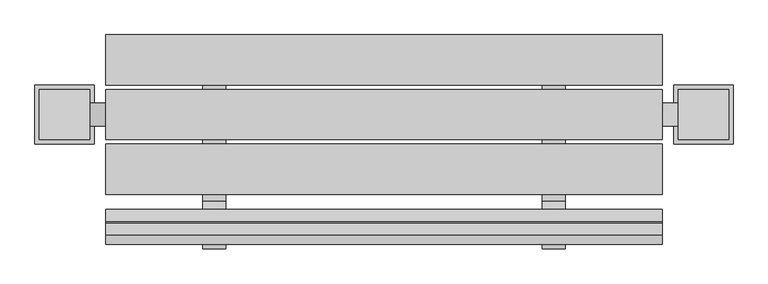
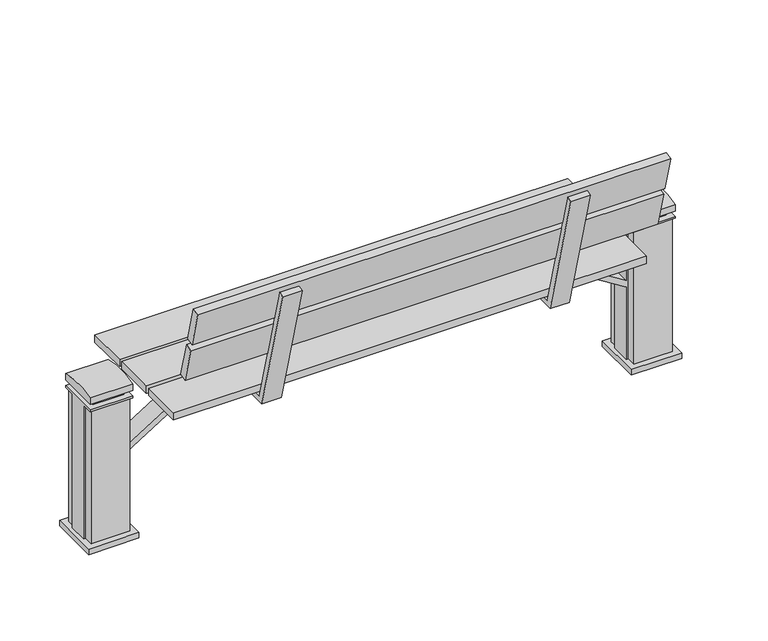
"""IFC4 building model written with IfcOpenShell, lengths in millimetres: geographic element geometry, Banc Urbain : 1500 mm x 380 mm."""

from ifc_helpers import new_model, si_unit, point, frame, frame_2d, origin, origin_with_axes, place, context, project, spatial, polyline, circle_curve, trimmed, segment, composite_curve, outline, extrude, faceted_brep, source, transform, mapped, element, save


def geographic_element_b47a3d4f(model_context):
    return source(origin(), model_context, "Body", "SolidModel", [
        extrude(outline(polyline([(0.0, -20.0000001), (0.0, 0.0), (1220.0, 0.0), (1220.0, -20.0000001), (0.0, -20.0000001)])), frame((660.0, -258.587047, 635.970344), z_axis=(0.0, -0.25881904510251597, 0.9659258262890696), x_axis=(-1.0, 0.0, 0.0)), (0.0, 0.0, 1.0), 100.0),
        extrude(outline(polyline([(0.0, -20.0), (0.0, 0.0), (1220.0, 0.0), (1220.0, -20.0), (0.0, -20.0)])), frame((660.0, -227.5287615, 520.0592448), z_axis=(0.0, -0.2588190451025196, 0.9659258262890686), x_axis=(-1.0, 0.0, 0.0)), (0.0, 0.0, 1.0), 100.0),
        extrude(outline(polyline([(660.0, 55.0), (660.0, -55.0), (-560.0, -55.0), (-560.0, 55.0), (660.0, 55.0)])), frame((0.0, 0.0, 380.0), z_axis=(0.0, 0.0, 1.0), x_axis=(1.0, 0.0, 0.0)), (0.0, 0.0, 1.0), 20.0),
        extrude(outline(polyline([(660.0, 175.0), (660.0, 65.0), (-560.0, 65.0), (-560.0, 175.0), (660.0, 175.0)])), frame((0.0, 0.0, 380.0), z_axis=(0.0, 0.0, 1.0), x_axis=(1.0, 0.0, 0.0)), (0.0, 0.0, 1.0), 20.0),
        extrude(outline(polyline([(660.0, -65.0), (660.0, -175.0), (-560.0, -175.0), (-560.0, -65.0), (660.0, -65.0)])), frame((0.0, 0.0, 380.0), z_axis=(0.0, 0.0, 1.0), x_axis=(1.0, 0.0, 0.0)), (0.0, 0.0, 1.0), 20.0),
        extrude(outline(composite_curve([segment(polyline([(-55.0, 400.0), (-55.0, 417.7043875)]), True, "CONTINUOUS"), segment(trimmed(circle_curve(frame_2d((0.2085392, 225.7354547)), 199.7499786), [point((-55.0, 417.7043875))], [point((55.0, 417.8238453))], False, "CARTESIAN"), True, "CONTINUOUS"), segment(polyline([(55.0, 417.8238453), (55.0, 400.0), (-55.0, 400.0)]), True, "CONTINUOUS")], self_intersect=False)), frame((695.0, 0.0, 0.0), z_axis=(1.0, 0.0, 0.0), x_axis=(0.0, 1.0, 0.0)), (0.0, 0.0, 1.0), 110.0),
        faceted_brep([(-595.0, 55.0, 385.0), (-705.0, 55.0, 385.0), (-705.0, -55.0, 385.0), (-595.0, -55.0, 385.0), (805.0, -55.0, 385.0), (805.0, 55.0, 385.0), (695.0, 55.0, 385.0), (695.0, -55.0, 385.0), (-595.0, -55.0, 380.0), (-705.0, -55.0, 380.0), (-705.0, -25.0, 380.0), (-700.0, -25.0, 380.0), (-700.0, 25.0, 380.0), (-705.0, 25.0, 380.0), (-705.0, 55.0, 380.0), (-595.0, 55.0, 380.0), (-595.0, 25.0, 380.0), (-600.0, 25.0, 380.0), (-600.0, -25.0, 380.0), (-595.0, -25.0, 380.0), (805.0, -55.0, 380.0), (695.0, -55.0, 380.0), (695.0, -25.0, 380.0), (700.0, -25.0, 380.0), (700.0, 25.0, 380.0), (695.0, 25.0, 380.0), (695.0, 55.0, 380.0), (805.0, 55.0, 380.0), (805.0, 25.0, 380.0), (800.0, 25.0, 380.0), (800.0, -25.0, 380.0), (805.0, -25.0, 380.0), (-705.0, 25.0, 15.0), (-705.0, -25.0, 15.0), (-595.0, -25.0, 230.0), (-595.0, 25.0, 230.0), (-595.0, -25.0, 15.0), (-595.0, 25.0, 15.0), (-595.0, 25.0, 212.2764518), (-595.0, -25.0, 212.2764518), (805.0, -25.0, 15.0), (805.0, 25.0, 15.0), (695.0, 25.0, 230.0), (695.0, -25.0, 230.0), (695.0, 25.0, 15.0), (695.0, -25.0, 15.0), (695.0, -25.0, 212.2764518), (695.0, 25.0, 212.2764518), (-700.0, -25.0, 15.0), (-600.0, -25.0, 15.0), (-352.3392511, -25.0, 365.0), (-346.6666667, -25.0, 365.0), (-346.6666667, -25.0, 380.0), (-356.6666667, -25.0, 380.0), (700.0, -25.0, 15.0), (456.6666667, -25.0, 380.0), (446.6666667, -25.0, 380.0), (446.6666667, -25.0, 365.0), (452.3392511, -25.0, 365.0), (800.0, -25.0, 15.0), (396.6666667, -25.0, 365.0), (396.6666667, -25.0, 380.0), (-296.6666667, -25.0, 380.0), (-296.6666667, -25.0, 365.0), (800.0, 25.0, 15.0), (-700.0, 25.0, 15.0), (-600.0, 25.0, 15.0), (-356.6666667, 25.0, 380.0), (-346.6666667, 25.0, 380.0), (-346.6666667, 25.0, 365.0), (-352.3392511, 25.0, 365.0), (700.0, 25.0, 15.0), (452.3392511, 25.0, 365.0), (446.6666667, 25.0, 365.0), (446.6666667, 25.0, 380.0), (456.6666667, 25.0, 380.0), (396.6666667, 25.0, 380.0), (396.6666667, 25.0, 365.0), (-296.6666667, 25.0, 365.0), (-296.6666667, 25.0, 380.0), (-346.6666667, 150.0, 365.0), (-296.6666667, 150.0, 365.0), (396.6666667, 150.0, 365.0), (446.6666667, 150.0, 365.0), (446.6666667, -201.5099048, 365.0), (396.6666667, -201.5099048, 365.0), (-296.6666667, -201.5099048, 365.0), (-346.6666667, -201.5099048, 365.0), (-346.6666667, -190.0, 380.0), (-296.6666667, -190.0, 380.0), (396.6666667, -190.0, 380.0), (446.6666667, -190.0, 380.0), (446.6666667, 150.0, 380.0), (396.6666667, 150.0, 380.0), (-296.6666667, 150.0, 380.0), (-346.6666667, 150.0, 380.0), (446.6666667, -280.5866658, 718.0740392), (446.6666667, -295.0755532, 714.1917535), (396.6666667, -295.0755532, 714.1917535), (396.6666667, -280.5866658, 718.0740392), (-296.6666667, -280.5866658, 718.0740392), (-296.6666667, -295.0755532, 714.1917535), (-346.6666667, -295.0755532, 714.1917535), (-346.6666667, -280.5866658, 718.0740392)], [[[0, 1, 2, 3]], [[4, 5, 6, 7]], [[8, 9, 10, 11, 12, 13, 14, 15, 16, 17, 18, 19]], [[20, 21, 22, 23, 24, 25, 26, 27, 28, 29, 30, 31]], [[1, 0, 15, 14]], [[2, 1, 14, 13, 32, 33, 10, 9]], [[3, 2, 9, 8]], [[0, 3, 8, 19, 34, 35, 16, 15]], [[36, 37, 38, 39]], [[5, 4, 20, 31, 40, 41, 28, 27]], [[6, 5, 27, 26]], [[7, 6, 26, 25, 42, 43, 22, 21]], [[44, 45, 46, 47]], [[4, 7, 21, 20]], [[10, 33, 48, 11]], [[18, 49, 36, 39, 50, 51, 52, 53, 34, 19]], [[45, 54, 23, 22, 43, 55, 56, 57, 58, 46]], [[30, 59, 40, 31]], [[60, 61, 62, 63]], [[28, 41, 64, 29]], [[12, 65, 32, 13]], [[37, 66, 17, 16, 35, 67, 68, 69, 70, 38]], [[24, 71, 44, 47, 72, 73, 74, 75, 42, 25]], [[76, 77, 78, 79]], [[48, 33, 32, 65]], [[11, 48, 65, 12]], [[49, 18, 17, 66]], [[36, 49, 66, 37]], [[54, 45, 44, 71]], [[23, 54, 71, 24]], [[59, 30, 29, 64]], [[40, 59, 64, 41]], [[34, 53, 67, 35]], [[50, 39, 38, 70]], [[50, 70, 69, 80, 81, 78, 77, 82, 83, 73, 72, 58, 57, 84, 85, 60, 63, 86, 87, 51]], [[46, 58, 72, 47]], [[55, 43, 42, 75]], [[67, 53, 52, 88, 89, 62, 61, 90, 91, 56, 55, 75, 74, 92, 93, 76, 79, 94, 95, 68]], [[91, 96, 97, 84, 57, 56]], [[83, 92, 74, 73]], [[93, 82, 77, 76]], [[85, 98, 99, 90, 61, 60]], [[96, 91, 90, 99]], [[97, 96, 99, 98]], [[84, 97, 98, 85]], [[92, 83, 82, 93]], [[89, 100, 101, 86, 63, 62]], [[81, 94, 79, 78]], [[95, 80, 69, 68]], [[87, 102, 103, 88, 52, 51]], [[100, 89, 88, 103]], [[101, 100, 103, 102]], [[86, 101, 102, 87]], [[94, 81, 80, 95]]]),
        extrude(outline(composite_curve([segment(polyline([(55.0, 400.0), (-55.0, 400.0), (-55.0, 417.7043875)]), True, "CONTINUOUS"), segment(trimmed(circle_curve(frame_2d((0.2085392, 225.7354547)), 199.7499786), [point((-55.0, 417.7043875))], [point((55.0, 417.8238453))], False, "CARTESIAN"), True, "CONTINUOUS"), segment(polyline([(55.0, 417.8238453), (55.0, 400.0)]), True, "CONTINUOUS")], self_intersect=False)), frame((-705.0, 0.0, 0.0), z_axis=(1.0, 0.0, 0.0), x_axis=(0.0, 1.0, 0.0)), (0.0, 0.0, 1.0), 110.0),
        extrude(outline(polyline([(-610.0, 40.0), (-610.0, -40.0), (-690.0, -40.0), (-690.0, 40.0), (-610.0, 40.0)])), frame((0.0, 0.0, 385.0), z_axis=(0.0, 0.0, 1.0), x_axis=(1.0, 0.0, 0.0)), (0.0, 0.0, 1.0), 15.0),
        extrude(outline(polyline([(790.0, 40.0), (790.0, -40.0), (710.0, -40.0), (710.0, 40.0), (790.0, 40.0)])), frame((0.0, 0.0, 385.0), z_axis=(0.0, 0.0, 1.0), x_axis=(1.0, 0.0, 0.0)), (0.0, 0.0, 1.0), 15.0),
        extrude(outline(polyline([(-585.0, -65.0), (-715.0, -65.0), (-715.0, 65.0), (-585.0, 65.0), (-585.0, -65.0)])), origin_with_axes(), (0.0, 0.0, 1.0), 15.0),
        extrude(outline(polyline([(815.0, -65.0), (685.0, -65.0), (685.0, 65.0), (815.0, 65.0), (815.0, -65.0)])), origin_with_axes(), (0.0, 0.0, 1.0), 15.0),
        extrude(outline(polyline([(-600.0, -50.0), (-700.0, -50.0), (-700.0, 50.0), (-600.0, 50.0), (-600.0, -50.0)])), frame((0.0, 0.0, 15.0), z_axis=(0.0, 0.0, 1.0), x_axis=(1.0, 0.0, 0.0)), (0.0, 0.0, 1.0), 365.0),
        extrude(outline(polyline([(800.0, -50.0), (700.0, -50.0), (700.0, 50.0), (800.0, 50.0), (800.0, -50.0)])), frame((0.0, 0.0, 15.0), z_axis=(0.0, 0.0, 1.0), x_axis=(1.0, 0.0, 0.0)), (0.0, 0.0, 1.0), 365.0),
    ])


if __name__ == "__main__":
    model = new_model("IFC4")
    model_context = context("Model", 3, world=origin())
    ifc_project = project(units=[si_unit("LENGTHUNIT", "METRE", prefix="MILLI")], contexts=[model_context])
    site = spatial("IfcSite", under=ifc_project)
    building = spatial("IfcBuilding", under=site)
    placement = place(None, origin())
    geographic_element_shape = geographic_element_b47a3d4f(model_context)
    element("IfcGeographicElement", 1, ObjectType="Banc Urbain : 1500 mm x 380 mm", at=placement, inside=building, context=model_context, shape_type="MappedRepresentation", body=[
        mapped(geographic_element_shape, transform((0.0, 0.0, 0.0), x_axis=(1.0, 0.0, 0.0), y_axis=(0.0, 1.0, 0.0), z_axis=(0.0, 0.0, 1.0))),
    ])
    save(model, "model.ifc")
